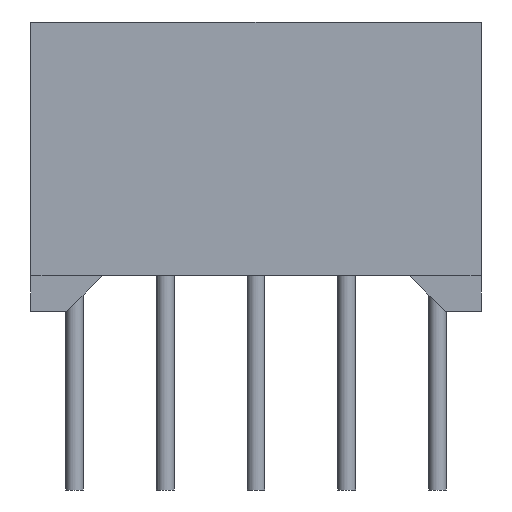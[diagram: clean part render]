
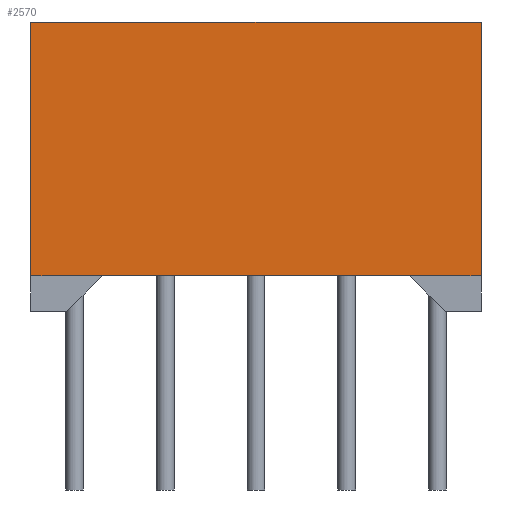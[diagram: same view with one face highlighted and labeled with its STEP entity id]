
A CAD part, front view. The second image highlights one B-rep face of the part: STEP entity #2570.
In plain terms, the highlighted planar face has unit normal (0, -1, 0).
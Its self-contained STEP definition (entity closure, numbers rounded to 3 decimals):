
#366 = PLANE('',#367);
#367 = AXIS2_PLACEMENT_3D('',#368,#369,#370);
#368 = CARTESIAN_POINT('',(-6.3,-9.5,0.));
#369 = DIRECTION('',(-1.,0.,0.));
#370 = DIRECTION('',(0.,1.,0.));
#394 = PLANE('',#395);
#395 = AXIS2_PLACEMENT_3D('',#396,#397,#398);
#396 = CARTESIAN_POINT('',(0.,0.,7.1));
#397 = DIRECTION('',(-0.,-0.,-1.));
#398 = DIRECTION('',(-1.,0.,0.));
#422 = PLANE('',#423);
#423 = AXIS2_PLACEMENT_3D('',#424,#425,#426);
#424 = CARTESIAN_POINT('',(6.3,9.5,0.));
#425 = DIRECTION('',(1.,0.,0.));
#426 = DIRECTION('',(0.,-1.,0.));
#778 = EDGE_CURVE('',#779,#781,#783,.T.);
#779 = VERTEX_POINT('',#780);
#780 = CARTESIAN_POINT('',(-6.3,-9.5,0.));
#781 = VERTEX_POINT('',#782);
#782 = CARTESIAN_POINT('',(-6.3,-9.5,7.1));
#783 = SURFACE_CURVE('',#784,(#788,#795),.PCURVE_S1.);
#784 = LINE('',#785,#786);
#785 = CARTESIAN_POINT('',(-6.3,-9.5,0.));
#786 = VECTOR('',#787,1.);
#787 = DIRECTION('',(0.,0.,1.));
#788 = PCURVE('',#366,#789);
#789 = DEFINITIONAL_REPRESENTATION('',(#790),#794);
#790 = LINE('',#791,#792);
#791 = CARTESIAN_POINT('',(0.,0.));
#792 = VECTOR('',#793,1.);
#793 = DIRECTION('',(0.,-1.));
#794 = ( GEOMETRIC_REPRESENTATION_CONTEXT(2) 
PARAMETRIC_REPRESENTATION_CONTEXT() REPRESENTATION_CONTEXT('2D SPACE',''
  ) );
#795 = PCURVE('',#796,#801);
#796 = PLANE('',#797);
#797 = AXIS2_PLACEMENT_3D('',#798,#799,#800);
#798 = CARTESIAN_POINT('',(6.3,-9.5,0.));
#799 = DIRECTION('',(0.,-1.,0.));
#800 = DIRECTION('',(-1.,0.,0.));
#801 = DEFINITIONAL_REPRESENTATION('',(#802),#806);
#802 = LINE('',#803,#804);
#803 = CARTESIAN_POINT('',(12.6,0.));
#804 = VECTOR('',#805,1.);
#805 = DIRECTION('',(0.,-1.));
#806 = ( GEOMETRIC_REPRESENTATION_CONTEXT(2) 
PARAMETRIC_REPRESENTATION_CONTEXT() REPRESENTATION_CONTEXT('2D SPACE',''
  ) );
#890 = VERTEX_POINT('',#891);
#891 = CARTESIAN_POINT('',(6.3,-9.5,7.1));
#912 = EDGE_CURVE('',#913,#890,#915,.T.);
#913 = VERTEX_POINT('',#914);
#914 = CARTESIAN_POINT('',(6.3,-9.5,0.));
#915 = SURFACE_CURVE('',#916,(#920,#927),.PCURVE_S1.);
#916 = LINE('',#917,#918);
#917 = CARTESIAN_POINT('',(6.3,-9.5,0.));
#918 = VECTOR('',#919,1.);
#919 = DIRECTION('',(0.,0.,1.));
#920 = PCURVE('',#422,#921);
#921 = DEFINITIONAL_REPRESENTATION('',(#922),#926);
#922 = LINE('',#923,#924);
#923 = CARTESIAN_POINT('',(19.,0.));
#924 = VECTOR('',#925,1.);
#925 = DIRECTION('',(0.,-1.));
#926 = ( GEOMETRIC_REPRESENTATION_CONTEXT(2) 
PARAMETRIC_REPRESENTATION_CONTEXT() REPRESENTATION_CONTEXT('2D SPACE',''
  ) );
#927 = PCURVE('',#796,#928);
#928 = DEFINITIONAL_REPRESENTATION('',(#929),#933);
#929 = LINE('',#930,#931);
#930 = CARTESIAN_POINT('',(0.,-0.));
#931 = VECTOR('',#932,1.);
#932 = DIRECTION('',(0.,-1.));
#933 = ( GEOMETRIC_REPRESENTATION_CONTEXT(2) 
PARAMETRIC_REPRESENTATION_CONTEXT() REPRESENTATION_CONTEXT('2D SPACE',''
  ) );
#1126 = EDGE_CURVE('',#890,#781,#1127,.T.);
#1127 = SURFACE_CURVE('',#1128,(#1132,#1139),.PCURVE_S1.);
#1128 = LINE('',#1129,#1130);
#1129 = CARTESIAN_POINT('',(6.3,-9.5,7.1));
#1130 = VECTOR('',#1131,1.);
#1131 = DIRECTION('',(-1.,0.,0.));
#1132 = PCURVE('',#394,#1133);
#1133 = DEFINITIONAL_REPRESENTATION('',(#1134),#1138);
#1134 = LINE('',#1135,#1136);
#1135 = CARTESIAN_POINT('',(-6.3,-9.5));
#1136 = VECTOR('',#1137,1.);
#1137 = DIRECTION('',(1.,0.));
#1138 = ( GEOMETRIC_REPRESENTATION_CONTEXT(2) 
PARAMETRIC_REPRESENTATION_CONTEXT() REPRESENTATION_CONTEXT('2D SPACE',''
  ) );
#1139 = PCURVE('',#796,#1140);
#1140 = DEFINITIONAL_REPRESENTATION('',(#1141),#1145);
#1141 = LINE('',#1142,#1143);
#1142 = CARTESIAN_POINT('',(0.,-7.1));
#1143 = VECTOR('',#1144,1.);
#1144 = DIRECTION('',(1.,0.));
#1145 = ( GEOMETRIC_REPRESENTATION_CONTEXT(2) 
PARAMETRIC_REPRESENTATION_CONTEXT() REPRESENTATION_CONTEXT('2D SPACE',''
  ) );
#2570 = ADVANCED_FACE('',(#2571),#796,.T.);
#2571 = FACE_BOUND('',#2572,.T.);
#2572 = EDGE_LOOP('',(#2573,#2574,#2575,#2576,#2604,#2632));
#2573 = ORIENTED_EDGE('',*,*,#912,.T.);
#2574 = ORIENTED_EDGE('',*,*,#1126,.T.);
#2575 = ORIENTED_EDGE('',*,*,#778,.F.);
#2576 = ORIENTED_EDGE('',*,*,#2577,.F.);
#2577 = EDGE_CURVE('',#2578,#779,#2580,.T.);
#2578 = VERTEX_POINT('',#2579);
#2579 = CARTESIAN_POINT('',(-4.3,-9.5,0.));
#2580 = SURFACE_CURVE('',#2581,(#2585,#2592),.PCURVE_S1.);
#2581 = LINE('',#2582,#2583);
#2582 = CARTESIAN_POINT('',(6.3,-9.5,0.));
#2583 = VECTOR('',#2584,1.);
#2584 = DIRECTION('',(-1.,0.,0.));
#2585 = PCURVE('',#796,#2586);
#2586 = DEFINITIONAL_REPRESENTATION('',(#2587),#2591);
#2587 = LINE('',#2588,#2589);
#2588 = CARTESIAN_POINT('',(0.,-0.));
#2589 = VECTOR('',#2590,1.);
#2590 = DIRECTION('',(1.,0.));
#2591 = ( GEOMETRIC_REPRESENTATION_CONTEXT(2) 
PARAMETRIC_REPRESENTATION_CONTEXT() REPRESENTATION_CONTEXT('2D SPACE',''
  ) );
#2592 = PCURVE('',#2593,#2598);
#2593 = PLANE('',#2594);
#2594 = AXIS2_PLACEMENT_3D('',#2595,#2596,#2597);
#2595 = CARTESIAN_POINT('',(-4.3,-9.5,0.));
#2596 = DIRECTION('',(0.,1.,0.));
#2597 = DIRECTION('',(-1.,0.,0.));
#2598 = DEFINITIONAL_REPRESENTATION('',(#2599),#2603);
#2599 = LINE('',#2600,#2601);
#2600 = CARTESIAN_POINT('',(-10.6,0.));
#2601 = VECTOR('',#2602,1.);
#2602 = DIRECTION('',(1.,0.));
#2603 = ( GEOMETRIC_REPRESENTATION_CONTEXT(2) 
PARAMETRIC_REPRESENTATION_CONTEXT() REPRESENTATION_CONTEXT('2D SPACE',''
  ) );
#2604 = ORIENTED_EDGE('',*,*,#2605,.F.);
#2605 = EDGE_CURVE('',#2606,#2578,#2608,.T.);
#2606 = VERTEX_POINT('',#2607);
#2607 = CARTESIAN_POINT('',(4.3,-9.5,0.));
#2608 = SURFACE_CURVE('',#2609,(#2613,#2620),.PCURVE_S1.);
#2609 = LINE('',#2610,#2611);
#2610 = CARTESIAN_POINT('',(6.3,-9.5,0.));
#2611 = VECTOR('',#2612,1.);
#2612 = DIRECTION('',(-1.,0.,0.));
#2613 = PCURVE('',#796,#2614);
#2614 = DEFINITIONAL_REPRESENTATION('',(#2615),#2619);
#2615 = LINE('',#2616,#2617);
#2616 = CARTESIAN_POINT('',(0.,-0.));
#2617 = VECTOR('',#2618,1.);
#2618 = DIRECTION('',(1.,0.));
#2619 = ( GEOMETRIC_REPRESENTATION_CONTEXT(2) 
PARAMETRIC_REPRESENTATION_CONTEXT() REPRESENTATION_CONTEXT('2D SPACE',''
  ) );
#2620 = PCURVE('',#2621,#2626);
#2621 = PLANE('',#2622);
#2622 = AXIS2_PLACEMENT_3D('',#2623,#2624,#2625);
#2623 = CARTESIAN_POINT('',(0.,0.,0.));
#2624 = DIRECTION('',(-0.,-0.,-1.));
#2625 = DIRECTION('',(-1.,0.,0.));
#2626 = DEFINITIONAL_REPRESENTATION('',(#2627),#2631);
#2627 = LINE('',#2628,#2629);
#2628 = CARTESIAN_POINT('',(-6.3,-9.5));
#2629 = VECTOR('',#2630,1.);
#2630 = DIRECTION('',(1.,0.));
#2631 = ( GEOMETRIC_REPRESENTATION_CONTEXT(2) 
PARAMETRIC_REPRESENTATION_CONTEXT() REPRESENTATION_CONTEXT('2D SPACE',''
  ) );
#2632 = ORIENTED_EDGE('',*,*,#2633,.F.);
#2633 = EDGE_CURVE('',#913,#2606,#2634,.T.);
#2634 = SURFACE_CURVE('',#2635,(#2639,#2646),.PCURVE_S1.);
#2635 = LINE('',#2636,#2637);
#2636 = CARTESIAN_POINT('',(6.3,-9.5,0.));
#2637 = VECTOR('',#2638,1.);
#2638 = DIRECTION('',(-1.,0.,0.));
#2639 = PCURVE('',#796,#2640);
#2640 = DEFINITIONAL_REPRESENTATION('',(#2641),#2645);
#2641 = LINE('',#2642,#2643);
#2642 = CARTESIAN_POINT('',(0.,-0.));
#2643 = VECTOR('',#2644,1.);
#2644 = DIRECTION('',(1.,0.));
#2645 = ( GEOMETRIC_REPRESENTATION_CONTEXT(2) 
PARAMETRIC_REPRESENTATION_CONTEXT() REPRESENTATION_CONTEXT('2D SPACE',''
  ) );
#2646 = PCURVE('',#2647,#2652);
#2647 = PLANE('',#2648);
#2648 = AXIS2_PLACEMENT_3D('',#2649,#2650,#2651);
#2649 = CARTESIAN_POINT('',(4.3,-9.5,0.));
#2650 = DIRECTION('',(0.,-1.,0.));
#2651 = DIRECTION('',(1.,0.,0.));
#2652 = DEFINITIONAL_REPRESENTATION('',(#2653),#2657);
#2653 = LINE('',#2654,#2655);
#2654 = CARTESIAN_POINT('',(2.,0.));
#2655 = VECTOR('',#2656,1.);
#2656 = DIRECTION('',(-1.,0.));
#2657 = ( GEOMETRIC_REPRESENTATION_CONTEXT(2) 
PARAMETRIC_REPRESENTATION_CONTEXT() REPRESENTATION_CONTEXT('2D SPACE',''
  ) );
